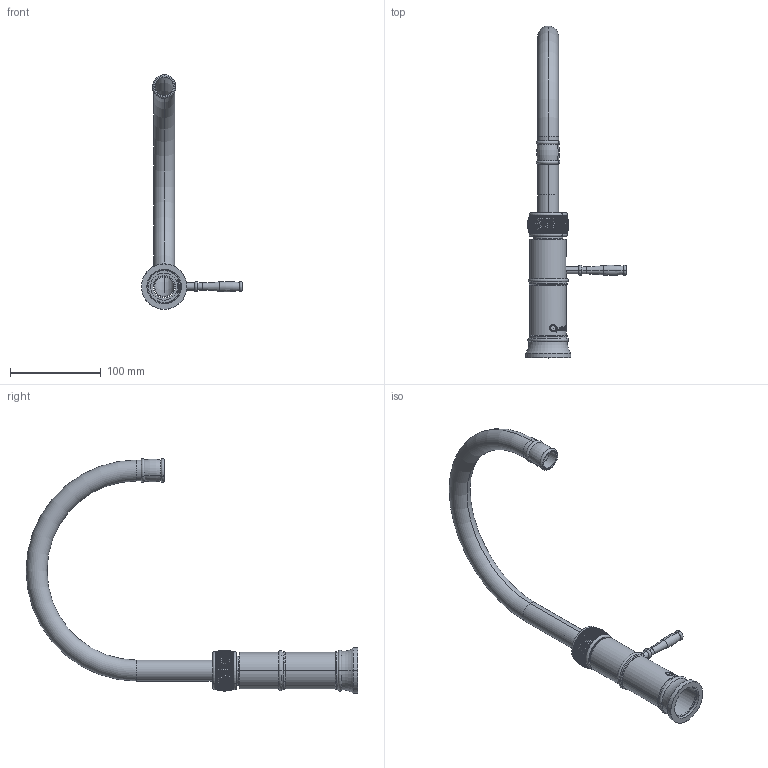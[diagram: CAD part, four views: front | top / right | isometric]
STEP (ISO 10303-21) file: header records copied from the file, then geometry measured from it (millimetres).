
FILE_DESCRIPTION (( 'STEP AP214' ), '1' );
FILE_NAME ('Fusion Classic Round.STEP', '2018-04-10T10:19:25', ( '' ), ( '' ), 'SwSTEP 2.0', 'SolidWorks 2016', '' );
FILE_SCHEMA (( 'AUTOMOTIVE_DESIGN' ));
Length unit declared in the file: millimetre
Products named in the file (1): Fusion Classic Round
Bounding box: 111.19 x 364.7 x 257.99 mm (x, y, z)
Surface area: 81894.6 mm2 (no closed solid volume)
Topology: 0 solids, 16 shells, 1939 faces, 7016 edges, 4948 vertices
Faces by surface type: cone 1540, torus 277, cylinder 66, bspline 40, plane 16
Entity records: 107516 total; most frequent: CARTESIAN_POINT 40775, ORIENTED_EDGE 10762, EDGE_CURVE 7016, B_SPLINE_CURVE_WITH_KNOTS 6562, VERTEX_POINT 4948, DIRECTION 4593, EDGE_LOOP 2422, AXIS2_PLACEMENT_3D 2242
